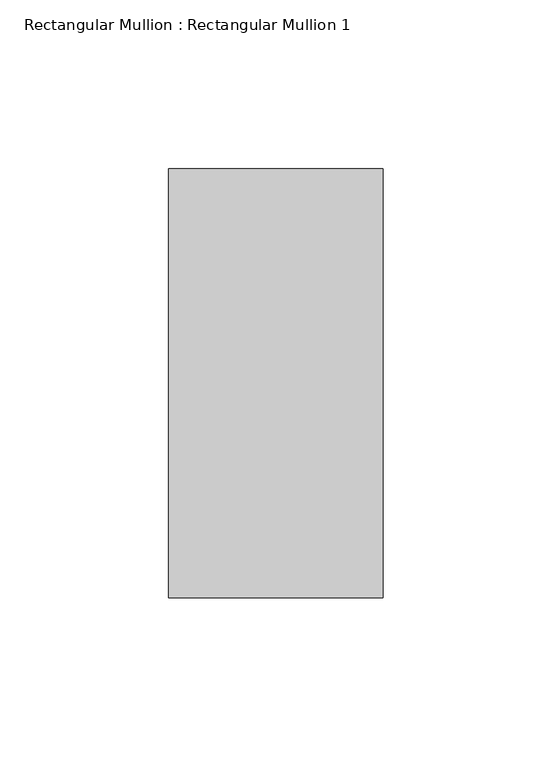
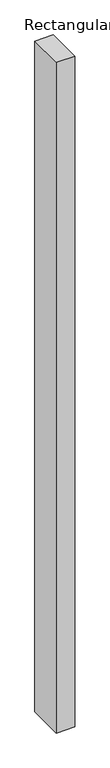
"""IFC4 building model written with IfcOpenShell, lengths in millimetres: member geometry, Rectangular Mullion : Rectangular Mullion 1."""

from ifc_helpers import new_model, si_unit, frame, origin, place, context, project, spatial, polyline, outline, extrude, source, transform, mapped, element, save


def rectangular_mullion_rectangular_mullion_1_9f094a73(model_context):
    return source(origin(), model_context, "Body", "SweptSolid", [
        extrude(outline(polyline([(31.75, 63.5), (31.75, -63.5), (-31.75, -63.5), (-31.75, 63.5), (31.75, 63.5)])), frame((0.0, 0.0, -2436.7403044), z_axis=(0.0, 0.0, 1.0), x_axis=(1.0, 0.0, 0.0)), (0.0, 0.0, 1.0), 2436.7403044),
    ])


if __name__ == "__main__":
    model = new_model("IFC4")
    model_context = context("Model", 3, world=origin())
    ifc_project = project(units=[si_unit("LENGTHUNIT", "METRE", prefix="MILLI")], contexts=[model_context])
    site = spatial("IfcSite", under=ifc_project)
    building = spatial("IfcBuilding", under=site)
    placement = place(None, origin())
    rectangular_mullion_rectangular_mullion_1_shape = rectangular_mullion_rectangular_mullion_1_9f094a73(model_context)
    element("IfcMember", 1, ObjectType="Rectangular Mullion : Rectangular Mullion 1", at=placement, inside=building, context=model_context, shape_type="MappedRepresentation", body=[
        mapped(rectangular_mullion_rectangular_mullion_1_shape, transform((0.0, 0.0, 0.0), x_axis=(1.0, 0.0, 0.0), y_axis=(0.0, 1.0, 0.0), z_axis=(0.0, 0.0, 1.0))),
    ])
    save(model, "model.ifc")
